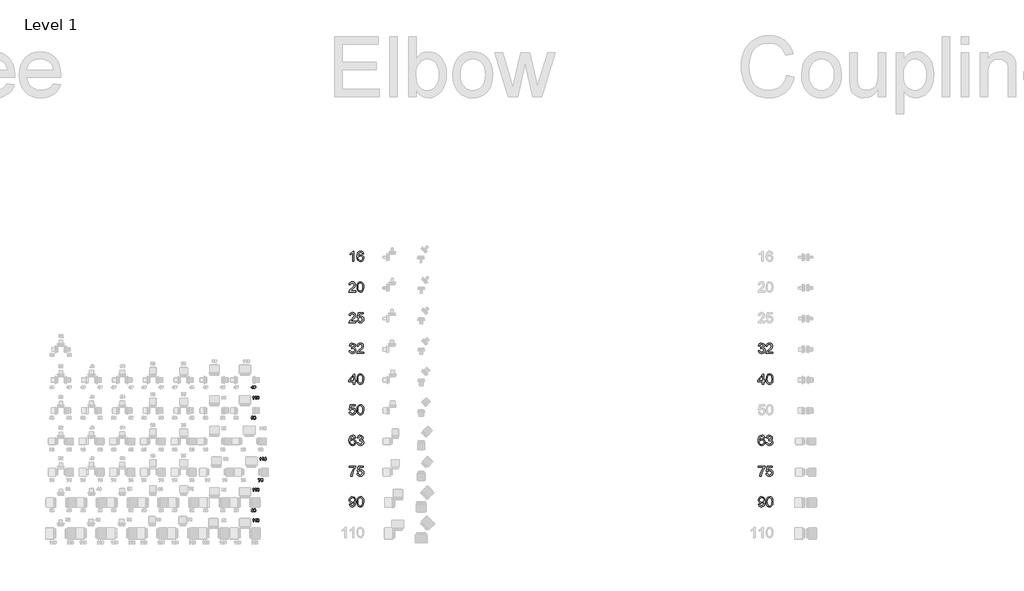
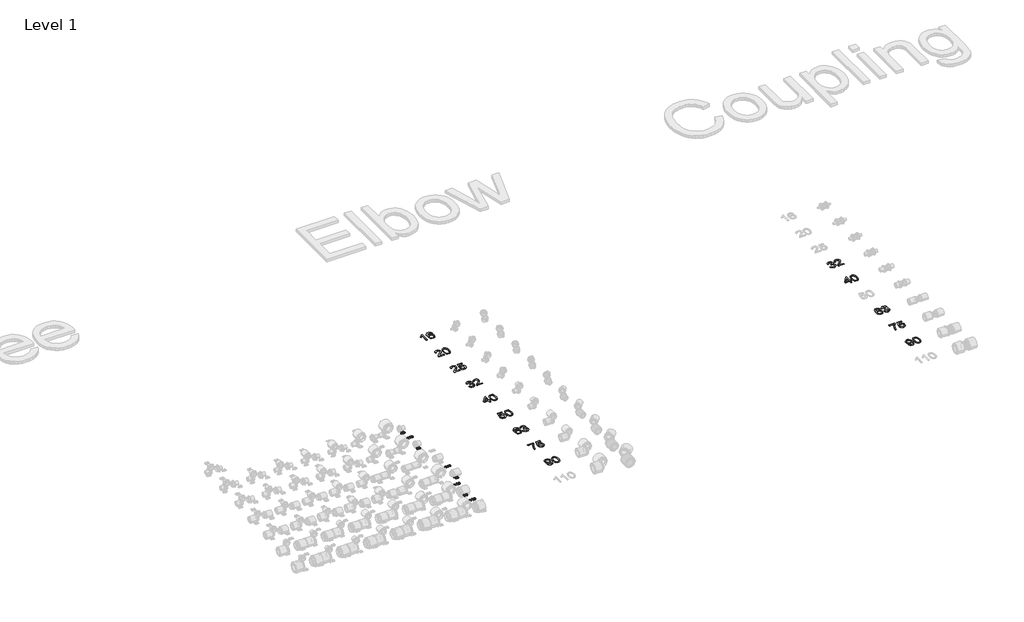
# One storey, part 32 of 58: 22 proxies.
"""IFC4 building model written with IfcOpenShell, lengths in millimetres."""

from ifc_helpers import new_model, si_unit, frame, origin, place, context, project, spatial, polyline, outline, extrude, element, save

model = new_model("IFC4")

# Units and contexts
model_context = context("Model", 3, world=origin())
ifc_project = project(units=[si_unit("LENGTHUNIT", "METRE", prefix="MILLI")], contexts=[model_context])

# Site, building, storey
site = spatial("IfcSite", under=ifc_project)
building = spatial("IfcBuilding", under=site)
storey = spatial("IfcBuildingStorey", under=building, Name="Level 1", Elevation=27.3876384)

# Proxies
placement = place(None, origin())
element("IfcBuildingElementProxy", 1, Name="100mm Arial", ObjectType="100mm Arial", at=placement, inside=storey, context=model_context, shape_type="SweptSolid", body=[
    extrude(outline(polyline([(17031.5703727, 18606.196048), (17019.0133339, 18606.196048), (17019.0133339, 18684.4813365), (17007.1184827, 18676.0077879), (16993.8992564, 18669.6679549), (16993.8992564, 18681.5382806), (17012.3056189, 18693.285979), (17023.4769688, 18706.6523581), (17031.5703727, 18706.6523581), (17031.5703727, 18606.196048)])), frame((0.0, 0.0, 27.3876384), z_axis=(0.0, 0.0, 1.0), x_axis=(1.0, 0.0, 0.0)), (0.0, 0.0, 1.0), 2.0),
    extrude(outline(polyline([(17125.7481635, 18679.9686507), (17113.1911247, 18678.3990209), (17108.4331842, 18688.871395), (17095.85162, 18694.0953193), (17084.5208545, 18691.0541615), (17075.949204, 18679.6375569), (17072.3807487, 18657.2580689), (17083.4539967, 18667.2767219), (17097.1759952, 18670.5508717), (17108.7765407, 18668.3129229), (17118.5131509, 18661.5990764), (17125.1166327, 18651.3413001), (17127.3177933, 18638.4715617), (17123.1729895, 18621.1443197), (17111.7686476, 18608.8815865), (17095.3120597, 18604.6264181), (17081.0658295, 18607.4468468), (17069.7197356, 18615.9081326), (17062.2977163, 18630.8441416), (17059.8237099, 18653.0887396), (17062.5705621, 18678.0985839), (17070.8111188, 18695.1989653), (17082.0621765, 18703.7890099), (17096.6364349, 18706.6523581), (17107.6545007, 18704.8803932), (17116.4775372, 18699.5644983), (17122.6579547, 18691.1216066), (17125.7481635, 18679.9686507)]), holes=[polyline([(17072.3807487, 18638.6677654), (17075.2870164, 18627.7907211), (17083.0125383, 18619.8935209), (17094.3310411, 18617.1834569), (17102.617583, 18618.5875398), (17109.13216, 18622.7997887), (17113.3536059, 18629.4216646), (17114.7607545, 18638.0546288), (17113.372, 18646.3411707), (17109.2057364, 18652.659544), (17102.5807948, 18656.6602607), (17093.8160063, 18657.9938329), (17078.6224799, 18652.659544), (17073.9411815, 18646.4944549), (17072.3807487, 18638.6677654)])]), frame((0.0, 0.0, 27.3876384), z_axis=(0.0, 0.0, 1.0), x_axis=(1.0, 0.0, 0.0)), (0.0, 0.0, 1.0), 2.0),
])
element("IfcBuildingElementProxy", 2, Name="100mm Arial", ObjectType="100mm Arial", at=placement, inside=storey, context=model_context, shape_type="SweptSolid", body=[
    extrude(outline(polyline([(17048.836301, 18318.7530867), (17048.836301, 18306.196048), (16982.9118475, 18306.196048), (16984.2607481, 18314.8535376), (16991.8881681, 18328.1831285), (17007.6089921, 18342.7389928), (17029.2895043, 18363.6592156), (17034.7096324, 18377.8839861), (17029.5960726, 18389.3986925), (17016.2419562, 18394.0953193), (17002.3237541, 18389.5090571), (16997.0385161, 18376.829391), (16984.4814773, 18378.3990209), (16987.5257008, 18390.5452581), (16994.1077228, 18399.4173455), (17003.8841869, 18404.843605), (17016.5117363, 18406.6523581), (17029.2312563, 18404.6412699), (17038.9893263, 18398.6080052), (17045.1973349, 18389.5948963), (17047.2666711, 18378.6442756), (17045.0348537, 18366.7371616), (17037.6159001, 18354.4253775), (17019.6264706, 18337.2207629), (17005.1809709, 18325.1419707), (16999.5155882, 18318.7530867), (17048.836301, 18318.7530867)])), frame((0.0, 0.0, 27.3876384), z_axis=(0.0, 0.0, 1.0), x_axis=(1.0, 0.0, 0.0)), (0.0, 0.0, 1.0), 2.0),
    extrude(outline(polyline([(17061.3933398, 18355.6148627), (17065.0844224, 18384.5181247), (17076.0473059, 18401.1831791), (17094.3555665, 18406.6523581), (17109.0217954, 18403.4149966), (17119.150813, 18394.0830566), (17125.0369249, 18379.220624), (17127.3177933, 18355.6148627), (17123.6634988, 18326.8342279), (17112.7374036, 18310.1323853), (17104.5060439, 18306.0029099), (17094.3555665, 18304.6264181), (17081.3080184, 18307.0176511), (17071.39973, 18314.19135), (17063.8949373, 18331.1813668), (17061.3933398, 18355.6148627)]), holes=[polyline([(17073.9503785, 18355.6393881), (17075.4219065, 18335.8871907), (17079.8364905, 18324.4552577), (17086.4093154, 18319.0014071), (17094.3555665, 18317.1834569), (17102.3018176, 18319.0075385), (17108.8746426, 18324.4797831), (17113.2892265, 18335.9178475), (17114.7607545, 18355.6393881), (17113.3382775, 18374.9470615), (17109.0708463, 18386.4678993), (17102.5102841, 18392.1884643), (17094.2084137, 18394.0953193), (17086.3480018, 18392.4153249), (17080.0326942, 18387.3753416), (17075.4709574, 18375.1371339), (17073.9503785, 18355.6393881)])]), frame((0.0, 0.0, 27.3876384), z_axis=(0.0, 0.0, 1.0), x_axis=(1.0, 0.0, 0.0)), (0.0, 0.0, 1.0), 2.0),
])
element("IfcBuildingElementProxy", 3, Name="100mm Arial", ObjectType="100mm Arial", at=placement, inside=storey, context=model_context, shape_type="SweptSolid", body=[
    extrude(outline(polyline([(17048.836301, 18018.7530867), (17048.836301, 18006.196048), (16982.9118475, 18006.196048), (16984.2607481, 18014.8535376), (16991.8881681, 18028.1831285), (17007.6089921, 18042.7389928), (17029.2895043, 18063.6592156), (17034.7096324, 18077.8839861), (17029.5960726, 18089.3986925), (17016.2419562, 18094.0953193), (17002.3237541, 18089.5090571), (16997.0385161, 18076.829391), (16984.4814773, 18078.3990209), (16987.5257008, 18090.5452581), (16994.1077228, 18099.4173455), (17003.8841869, 18104.843605), (17016.5117363, 18106.6523581), (17029.2312563, 18104.6412699), (17038.9893263, 18098.6080052), (17045.1973349, 18089.5948963), (17047.2666711, 18078.6442756), (17045.0348537, 18066.7371616), (17037.6159001, 18054.4253775), (17019.6264706, 18037.2207629), (17005.1809709, 18025.1419707), (16999.5155882, 18018.7530867), (17048.836301, 18018.7530867)])), frame((0.0, 0.0, 27.3876384), z_axis=(0.0, 0.0, 1.0), x_axis=(1.0, 0.0, 0.0)), (0.0, 0.0, 1.0), 2.0),
    extrude(outline(polyline([(17061.3933398, 18032.8797554), (17073.9503785, 18034.4493852), (17080.2779488, 18021.5122017), (17093.3990733, 18017.1834569), (17102.3999195, 18018.6887074), (17109.1444227, 18023.2044589), (17113.3566716, 18030.2095452), (17114.7607545, 18039.1828002), (17109.500042, 18054.0942837), (17102.8934945, 18058.196168), (17093.5952771, 18059.5634627), (17082.57108, 18057.3806962), (17075.5200084, 18051.7153135), (17062.9629696, 18053.2849434), (17073.9503785, 18105.0827283), (17122.6089038, 18105.0827283), (17122.6089038, 18092.5256895), (17084.1039216, 18092.5256895), (17078.7328445, 18064.8609635), (17087.7030338, 18070.305617), (17097.1024188, 18072.1205015), (17108.8347887, 18069.87029), (17118.5744645, 18063.1196554), (17125.1319611, 18052.8312222), (17127.3177933, 18039.9676151), (17125.3496246, 18027.4105764), (17119.4451186, 18016.6684221), (17108.1388786, 18007.6369191), (17093.3500224, 18004.6264181), (17081.0167785, 18006.5608643), (17071.1912636, 18012.3642028), (17064.4559574, 18021.3619832), (17061.3933398, 18032.8797554)])), frame((0.0, 0.0, 27.3876384), z_axis=(0.0, 0.0, 1.0), x_axis=(1.0, 0.0, 0.0)), (0.0, 0.0, 1.0), 2.0),
])
element("IfcBuildingElementProxy", 4, Name="100mm Arial", ObjectType="100mm Arial", at=placement, inside=storey, context=model_context, shape_type="SweptSolid", body=[
    extrude(outline(polyline([(16984.4814773, 17732.8797554), (16997.0385161, 17734.4493852), (17003.9669603, 17721.2301588), (17016.9286693, 17717.1834569), (17025.537108, 17718.5752771), (17032.1835093, 17722.7507378), (17037.8488921, 17736.5340498), (17032.2325603, 17749.5202843), (17017.9587389, 17754.6583695), (17009.1540964, 17753.2849434), (17010.552048, 17765.8419821), (17012.5631363, 17765.6948293), (17026.8124322, 17769.3000729), (17031.55811, 17773.8740723), (17033.1400025, 17780.3855837), (17028.5537403, 17790.2080329), (17016.7324655, 17794.0953193), (17004.764038, 17790.1712447), (16998.6081459, 17778.3990209), (16986.0511071, 17779.9686507), (16989.7483212, 17791.2442339), (16996.3272775, 17799.6626002), (17005.3281237, 17804.9049186), (17016.2910072, 17806.6523581), (17031.4354826, 17803.2065301), (17042.0304841, 17793.788751), (17045.6970413, 17781.1213477), (17042.2144251, 17769.5453275), (17031.9137292, 17761.2311944), (17045.5989394, 17752.6472812), (17050.4059308, 17736.3133206), (17048.0024351, 17724.0751129), (17040.791948, 17713.8479935), (17029.9087723, 17706.931812), (17016.4872109, 17704.6264181), (17004.347105, 17706.5945868), (16994.4633421, 17712.4990928), (16987.5900802, 17721.5305958), (16984.4814773, 17732.8797554)])), frame((0.0, 0.0, 27.3876384), z_axis=(0.0, 0.0, 1.0), x_axis=(1.0, 0.0, 0.0)), (0.0, 0.0, 1.0), 2.0),
    extrude(outline(polyline([(17125.7481635, 17718.7530867), (17125.7481635, 17706.196048), (17059.8237099, 17706.196048), (17061.1726106, 17714.8535376), (17068.8000306, 17728.1831285), (17084.5208545, 17742.7389928), (17106.2013668, 17763.6592156), (17111.6214948, 17777.8839861), (17106.5079351, 17789.3986925), (17093.1538187, 17794.0953193), (17079.2356165, 17789.5090571), (17073.9503785, 17776.829391), (17061.3933398, 17778.3990209), (17064.4375633, 17790.5452581), (17071.0195853, 17799.4173455), (17080.7960493, 17804.843605), (17093.4235988, 17806.6523581), (17106.1431188, 17804.6412699), (17115.9011887, 17798.6080052), (17122.1091974, 17789.5948963), (17124.1785336, 17778.6442756), (17121.9467162, 17766.7371616), (17114.5277626, 17754.4253775), (17096.538333, 17737.2207629), (17082.0928334, 17725.1419707), (17076.4274506, 17718.7530867), (17125.7481635, 17718.7530867)])), frame((0.0, 0.0, 27.3876384), z_axis=(0.0, 0.0, 1.0), x_axis=(1.0, 0.0, 0.0)), (0.0, 0.0, 1.0), 2.0),
])
element("IfcBuildingElementProxy", 5, Name="100mm Arial", ObjectType="100mm Arial", at=placement, inside=storey, context=model_context, shape_type="SweptSolid", body=[
    extrude(outline(polyline([(17025.2918533, 17406.196048), (17025.2918533, 17429.7404957), (16979.7725878, 17429.7404957), (16979.7725878, 17442.2975344), (17028.431113, 17505.0827283), (17037.8488921, 17505.0827283), (17037.8488921, 17442.2975344), (17050.4059308, 17442.2975344), (17050.4059308, 17429.7404957), (17037.8488921, 17429.7404957), (17037.8488921, 17406.196048), (17025.2918533, 17406.196048)]), holes=[polyline([(17025.2918533, 17442.2975344), (17025.2918533, 17481.0968222), (16995.2236316, 17442.2975344), (17025.2918533, 17442.2975344)])]), frame((0.0, 0.0, 27.3876384), z_axis=(0.0, 0.0, 1.0), x_axis=(1.0, 0.0, 0.0)), (0.0, 0.0, 1.0), 2.0),
    extrude(outline(polyline([(17061.3933398, 17455.6148627), (17065.0844224, 17484.5181247), (17076.0473059, 17501.1831791), (17094.3555665, 17506.6523581), (17109.0217954, 17503.4149966), (17119.150813, 17494.0830566), (17125.0369249, 17479.220624), (17127.3177933, 17455.6148627), (17123.6634988, 17426.8342279), (17112.7374036, 17410.1323853), (17104.5060439, 17406.0029099), (17094.3555665, 17404.6264181), (17081.3080184, 17407.0176511), (17071.39973, 17414.19135), (17063.8949373, 17431.1813668), (17061.3933398, 17455.6148627)]), holes=[polyline([(17073.9503785, 17455.6393881), (17075.4219065, 17435.8871907), (17079.8364905, 17424.4552577), (17086.4093154, 17419.0014071), (17094.3555665, 17417.1834569), (17102.3018176, 17419.0075385), (17108.8746426, 17424.4797831), (17113.2892265, 17435.9178475), (17114.7607545, 17455.6393881), (17113.3382775, 17474.9470615), (17109.0708463, 17486.4678993), (17102.5102841, 17492.1884643), (17094.2084137, 17494.0953193), (17086.3480018, 17492.4153249), (17080.0326942, 17487.3753416), (17075.4709574, 17475.1371339), (17073.9503785, 17455.6393881)])]), frame((0.0, 0.0, 27.3876384), z_axis=(0.0, 0.0, 1.0), x_axis=(1.0, 0.0, 0.0)), (0.0, 0.0, 1.0), 2.0),
])
element("IfcBuildingElementProxy", 6, Name="100mm Arial", ObjectType="100mm Arial", at=placement, inside=storey, context=model_context, shape_type="SweptSolid", body=[
    extrude(outline(polyline([(16984.4814773, 17132.8797554), (16997.0385161, 17134.4493852), (17003.3660864, 17121.5122017), (17016.4872109, 17117.1834569), (17025.488057, 17118.6887074), (17032.2325603, 17123.2044589), (17036.4448091, 17130.2095452), (17037.8488921, 17139.1828002), (17032.5881795, 17154.0942837), (17025.981632, 17158.196168), (17016.6834146, 17159.5634627), (17005.6592175, 17157.3806962), (16998.6081459, 17151.7153135), (16986.0511071, 17153.2849434), (16997.0385161, 17205.0827283), (17045.6970413, 17205.0827283), (17045.6970413, 17192.5256895), (17007.1920591, 17192.5256895), (17001.820982, 17164.8609635), (17010.7911713, 17170.305617), (17020.1905563, 17172.1205015), (17031.9229263, 17169.87029), (17041.6626021, 17163.1196554), (17048.2200987, 17152.8312222), (17050.4059308, 17139.9676151), (17048.4377622, 17127.4105764), (17042.5332561, 17116.6684221), (17031.2270162, 17107.6369191), (17016.43816, 17104.6264181), (17004.1049161, 17106.5608643), (16994.2794011, 17112.3642028), (16987.5440949, 17121.3619832), (16984.4814773, 17132.8797554)])), frame((0.0, 0.0, 27.3876384), z_axis=(0.0, 0.0, 1.0), x_axis=(1.0, 0.0, 0.0)), (0.0, 0.0, 1.0), 2.0),
    extrude(outline(polyline([(17061.3933398, 17155.6148627), (17065.0844224, 17184.5181247), (17076.0473059, 17201.1831791), (17094.3555665, 17206.6523581), (17109.0217954, 17203.4149966), (17119.150813, 17194.0830566), (17125.0369249, 17179.220624), (17127.3177933, 17155.6148627), (17123.6634988, 17126.8342279), (17112.7374036, 17110.1323853), (17104.5060439, 17106.0029099), (17094.3555665, 17104.6264181), (17081.3080184, 17107.0176511), (17071.39973, 17114.19135), (17063.8949373, 17131.1813668), (17061.3933398, 17155.6148627)]), holes=[polyline([(17073.9503785, 17155.6393881), (17075.4219065, 17135.8871907), (17079.8364905, 17124.4552577), (17086.4093154, 17119.0014071), (17094.3555665, 17117.1834569), (17102.3018176, 17119.0075385), (17108.8746426, 17124.4797831), (17113.2892265, 17135.9178475), (17114.7607545, 17155.6393881), (17113.3382775, 17174.9470615), (17109.0708463, 17186.4678993), (17102.5102841, 17192.1884643), (17094.2084137, 17194.0953193), (17086.3480018, 17192.4153249), (17080.0326942, 17187.3753416), (17075.4709574, 17175.1371339), (17073.9503785, 17155.6393881)])]), frame((0.0, 0.0, 27.3876384), z_axis=(0.0, 0.0, 1.0), x_axis=(1.0, 0.0, 0.0)), (0.0, 0.0, 1.0), 2.0),
])
element("IfcBuildingElementProxy", 7, Name="100mm Arial", ObjectType="100mm Arial", at=placement, inside=storey, context=model_context, shape_type="SweptSolid", body=[
    extrude(outline(polyline([(17048.836301, 16879.9686507), (17036.2792622, 16878.3990209), (17031.5213218, 16888.871395), (17018.9397575, 16894.0953193), (17007.6089921, 16891.0541615), (16999.0373416, 16879.6375569), (16995.4688862, 16857.2580689), (17006.5421343, 16867.2767219), (17020.2641327, 16870.5508717), (17031.8646783, 16868.3129229), (17041.6012884, 16861.5990764), (17048.2047702, 16851.3413001), (17050.4059308, 16838.4715617), (17046.261127, 16821.1443197), (17034.8567852, 16808.8815865), (17018.4001973, 16804.6264181), (17004.153967, 16807.4468468), (16992.8078731, 16815.9081326), (16985.3858539, 16830.8441416), (16982.9118475, 16853.0887396), (16985.6586997, 16878.0985839), (16993.8992564, 16895.1989653), (17005.1503141, 16903.7890099), (17019.7245724, 16906.6523581), (17030.7426382, 16904.8803932), (17039.5656747, 16899.5644983), (17045.7460922, 16891.1216066), (17048.836301, 16879.9686507)]), holes=[polyline([(16995.4688862, 16838.6677654), (16998.375154, 16827.7907211), (17006.1006759, 16819.8935209), (17017.4191786, 16817.1834569), (17025.7057205, 16818.5875398), (17032.2202975, 16822.7997887), (17036.4417434, 16829.4216646), (17037.8488921, 16838.0546288), (17036.4601375, 16846.3411707), (17032.2938739, 16852.659544), (17025.6689323, 16856.6602607), (17016.9041438, 16857.9938329), (17001.7106174, 16852.659544), (16997.029319, 16846.4944549), (16995.4688862, 16838.6677654)])]), frame((0.0, 0.0, 27.3876384), z_axis=(0.0, 0.0, 1.0), x_axis=(1.0, 0.0, 0.0)), (0.0, 0.0, 1.0), 2.0),
    extrude(outline(polyline([(17061.3933398, 16832.8797554), (17073.9503785, 16834.4493852), (17080.8788228, 16821.2301588), (17093.8405317, 16817.1834569), (17102.4489704, 16818.5752771), (17109.0953718, 16822.7507378), (17114.7607545, 16836.5340498), (17109.1444227, 16849.5202843), (17094.8706013, 16854.6583695), (17086.0659589, 16853.2849434), (17087.4639105, 16865.8419821), (17089.4749987, 16865.6948293), (17103.7242947, 16869.3000729), (17108.4699724, 16873.8740723), (17110.051865, 16880.3855837), (17105.4656028, 16890.2080329), (17093.644328, 16894.0953193), (17081.6759004, 16890.1712447), (17075.5200084, 16878.3990209), (17062.9629696, 16879.9686507), (17066.6601837, 16891.2442339), (17073.23914, 16899.6626002), (17082.2399862, 16904.9049186), (17093.2028696, 16906.6523581), (17108.3473451, 16903.2065301), (17118.9423465, 16893.788751), (17122.6089038, 16881.1213477), (17119.1262875, 16869.5453275), (17108.8255917, 16861.2311944), (17122.5108019, 16852.6472812), (17127.3177933, 16836.3133206), (17124.9142976, 16824.0751129), (17117.7038105, 16813.8479935), (17106.8206348, 16806.931812), (17093.3990733, 16804.6264181), (17081.2589675, 16806.5945868), (17071.3752046, 16812.4990928), (17064.5019426, 16821.5305958), (17061.3933398, 16832.8797554)])), frame((0.0, 0.0, 27.3876384), z_axis=(0.0, 0.0, 1.0), x_axis=(1.0, 0.0, 0.0)), (0.0, 0.0, 1.0), 2.0),
])
element("IfcBuildingElementProxy", 8, Name="100mm Arial", ObjectType="100mm Arial", at=placement, inside=storey, context=model_context, shape_type="SweptSolid", body=[
    extrude(outline(polyline([(16984.4814773, 16592.5256895), (16984.4814773, 16605.0827283), (17050.4059308, 16605.0827283), (17050.4059308, 16594.9291852), (17031.7052628, 16567.914384), (17017.3946531, 16533.492892), (17012.7348145, 16506.196048), (17000.1777758, 16506.196048), (17005.1687082, 16534.5229616), (17018.8661811, 16566.5409579), (17037.8488921, 16592.5256895), (16984.4814773, 16592.5256895)])), frame((0.0, 0.0, 27.3876384), z_axis=(0.0, 0.0, 1.0), x_axis=(1.0, 0.0, 0.0)), (0.0, 0.0, 1.0), 2.0),
    extrude(outline(polyline([(17061.3933398, 16532.8797554), (17073.9503785, 16534.4493852), (17080.2779488, 16521.5122017), (17093.3990733, 16517.1834569), (17102.3999195, 16518.6887074), (17109.1444227, 16523.2044589), (17113.3566716, 16530.2095452), (17114.7607545, 16539.1828002), (17109.500042, 16554.0942837), (17102.8934945, 16558.196168), (17093.5952771, 16559.5634627), (17082.57108, 16557.3806962), (17075.5200084, 16551.7153135), (17062.9629696, 16553.2849434), (17073.9503785, 16605.0827283), (17122.6089038, 16605.0827283), (17122.6089038, 16592.5256895), (17084.1039216, 16592.5256895), (17078.7328445, 16564.8609635), (17087.7030338, 16570.305617), (17097.1024188, 16572.1205015), (17108.8347887, 16569.87029), (17118.5744645, 16563.1196554), (17125.1319611, 16552.8312222), (17127.3177933, 16539.9676151), (17125.3496246, 16527.4105764), (17119.4451186, 16516.6684221), (17108.1388786, 16507.6369191), (17093.3500224, 16504.6264181), (17081.0167785, 16506.5608643), (17071.1912636, 16512.3642028), (17064.4559574, 16521.3619832), (17061.3933398, 16532.8797554)])), frame((0.0, 0.0, 27.3876384), z_axis=(0.0, 0.0, 1.0), x_axis=(1.0, 0.0, 0.0)), (0.0, 0.0, 1.0), 2.0),
])
element("IfcBuildingElementProxy", 9, Name="100mm Arial", ObjectType="100mm Arial", at=placement, inside=storey, context=model_context, shape_type="SweptSolid", body=[
    extrude(outline(polyline([(16986.0511071, 16231.3101255), (16998.6081459, 16232.8797554), (17004.2490032, 16220.899065), (17014.9421065, 16217.1834569), (17025.1079123, 16219.5746899), (17031.9995683, 16225.9635738), (17036.107584, 16236.8774064), (17037.9224685, 16251.4455334), (17037.8488921, 16253.89808), (17027.8057136, 16244.3821991), (17014.0346642, 16240.7279046), (17002.5843371, 16242.959722), (16993.0531278, 16249.6551743), (16986.6243899, 16259.9987898), (16984.4814773, 16273.1750966), (16986.7286232, 16286.7867304), (16993.4700607, 16297.4553082), (17003.5960126, 16304.3530956), (17015.9967016, 16306.6523581), (17033.8880293, 16301.4039083), (17046.1998134, 16286.4433738), (17050.4059308, 16258.3371894), (17046.2120761, 16227.839772), (17040.9973488, 16217.8487102), (17033.7408765, 16210.561581), (17024.7553587, 16206.1102088), (17014.3534953, 16204.6264181), (17003.6174724, 16206.3769233), (16995.0519533, 16211.6284388), (16989.0616081, 16220.0498708), (16986.0511071, 16231.3101255)]), holes=[polyline([(17037.8488921, 16273.4694022), (17036.4938601, 16281.979739), (17032.428764, 16288.5280385), (17026.1195878, 16292.7034991), (17018.0323153, 16294.0953193), (17009.6446058, 16292.5962002), (17002.924628, 16288.0988428), (16998.5100441, 16281.2163838), (16997.0385161, 16272.5619599), (16998.4303363, 16264.8027155), (17002.6057969, 16258.6437577), (17009.1602278, 16254.624647), (17017.6889587, 16253.2849434), (17032.1712466, 16258.6437577), (17036.4294807, 16265.029576), (17037.8488921, 16273.4694022)])]), frame((0.0, 0.0, 27.3876384), z_axis=(0.0, 0.0, 1.0), x_axis=(1.0, 0.0, 0.0)), (0.0, 0.0, 1.0), 2.0),
    extrude(outline(polyline([(17061.3933398, 16255.6148627), (17065.0844224, 16284.5181247), (17076.0473059, 16301.1831791), (17094.3555665, 16306.6523581), (17109.0217954, 16303.4149966), (17119.150813, 16294.0830566), (17125.0369249, 16279.220624), (17127.3177933, 16255.6148627), (17123.6634988, 16226.8342279), (17112.7374036, 16210.1323853), (17104.5060439, 16206.0029099), (17094.3555665, 16204.6264181), (17081.3080184, 16207.0176511), (17071.39973, 16214.19135), (17063.8949373, 16231.1813668), (17061.3933398, 16255.6148627)]), holes=[polyline([(17073.9503785, 16255.6393881), (17075.4219065, 16235.8871907), (17079.8364905, 16224.4552577), (17086.4093154, 16219.0014071), (17094.3555665, 16217.1834569), (17102.3018176, 16219.0075385), (17108.8746426, 16224.4797831), (17113.2892265, 16235.9178475), (17114.7607545, 16255.6393881), (17113.3382775, 16274.9470615), (17109.0708463, 16286.4678993), (17102.5102841, 16292.1884643), (17094.2084137, 16294.0953193), (17086.3480018, 16292.4153249), (17080.0326942, 16287.3753416), (17075.4709574, 16275.1371339), (17073.9503785, 16255.6393881)])]), frame((0.0, 0.0, 27.3876384), z_axis=(0.0, 0.0, 1.0), x_axis=(1.0, 0.0, 0.0)), (0.0, 0.0, 1.0), 2.0),
])
element("IfcBuildingElementProxy", 10, Name="100mm Arial", ObjectType="100mm Arial", at=placement, inside=storey, context=model_context, shape_type="SweptSolid", body=[
    extrude(outline(polyline([(20984.4814773, 17732.8797554), (20997.0385161, 17734.4493852), (21003.9669603, 17721.2301588), (21016.9286693, 17717.1834569), (21025.537108, 17718.5752771), (21032.1835093, 17722.7507378), (21037.8488921, 17736.5340498), (21032.2325603, 17749.5202843), (21017.9587389, 17754.6583695), (21009.1540964, 17753.2849434), (21010.552048, 17765.8419821), (21012.5631363, 17765.6948293), (21026.8124322, 17769.3000729), (21031.55811, 17773.8740723), (21033.1400025, 17780.3855837), (21028.5537403, 17790.2080329), (21016.7324655, 17794.0953193), (21004.764038, 17790.1712447), (20998.6081459, 17778.3990209), (20986.0511071, 17779.9686507), (20989.7483212, 17791.2442339), (20996.3272775, 17799.6626002), (21005.3281237, 17804.9049186), (21016.2910072, 17806.6523581), (21031.4354826, 17803.2065301), (21042.0304841, 17793.788751), (21045.6970413, 17781.1213477), (21042.2144251, 17769.5453275), (21031.9137292, 17761.2311944), (21045.5989394, 17752.6472812), (21050.4059308, 17736.3133206), (21048.0024351, 17724.0751129), (21040.791948, 17713.8479935), (21029.9087723, 17706.931812), (21016.4872109, 17704.6264181), (21004.347105, 17706.5945868), (20994.4633421, 17712.4990928), (20987.5900802, 17721.5305958), (20984.4814773, 17732.8797554)])), frame((0.0, 0.0, 27.3876384), z_axis=(0.0, 0.0, 1.0), x_axis=(1.0, 0.0, 0.0)), (0.0, 0.0, 1.0), 2.0),
    extrude(outline(polyline([(21125.7481635, 17718.7530867), (21125.7481635, 17706.196048), (21059.8237099, 17706.196048), (21061.1726106, 17714.8535376), (21068.8000306, 17728.1831285), (21084.5208545, 17742.7389928), (21106.2013668, 17763.6592156), (21111.6214948, 17777.8839861), (21106.5079351, 17789.3986925), (21093.1538187, 17794.0953193), (21079.2356165, 17789.5090571), (21073.9503785, 17776.829391), (21061.3933398, 17778.3990209), (21064.4375633, 17790.5452581), (21071.0195853, 17799.4173455), (21080.7960493, 17804.843605), (21093.4235988, 17806.6523581), (21106.1431188, 17804.6412699), (21115.9011887, 17798.6080052), (21122.1091974, 17789.5948963), (21124.1785336, 17778.6442756), (21121.9467162, 17766.7371616), (21114.5277626, 17754.4253775), (21096.538333, 17737.2207629), (21082.0928334, 17725.1419707), (21076.4274506, 17718.7530867), (21125.7481635, 17718.7530867)])), frame((0.0, 0.0, 27.3876384), z_axis=(0.0, 0.0, 1.0), x_axis=(1.0, 0.0, 0.0)), (0.0, 0.0, 1.0), 2.0),
])
element("IfcBuildingElementProxy", 11, Name="100mm Arial", ObjectType="100mm Arial", at=placement, inside=storey, context=model_context, shape_type="SweptSolid", body=[
    extrude(outline(polyline([(21025.2918533, 17406.196048), (21025.2918533, 17429.7404957), (20979.7725878, 17429.7404957), (20979.7725878, 17442.2975344), (21028.431113, 17505.0827283), (21037.8488921, 17505.0827283), (21037.8488921, 17442.2975344), (21050.4059308, 17442.2975344), (21050.4059308, 17429.7404957), (21037.8488921, 17429.7404957), (21037.8488921, 17406.196048), (21025.2918533, 17406.196048)]), holes=[polyline([(21025.2918533, 17442.2975344), (21025.2918533, 17481.0968222), (20995.2236316, 17442.2975344), (21025.2918533, 17442.2975344)])]), frame((0.0, 0.0, 27.3876384), z_axis=(0.0, 0.0, 1.0), x_axis=(1.0, 0.0, 0.0)), (0.0, 0.0, 1.0), 2.0),
    extrude(outline(polyline([(21061.3933398, 17455.6148627), (21065.0844224, 17484.5181247), (21076.0473059, 17501.1831791), (21094.3555665, 17506.6523581), (21109.0217954, 17503.4149966), (21119.150813, 17494.0830566), (21125.0369249, 17479.220624), (21127.3177933, 17455.6148627), (21123.6634988, 17426.8342279), (21112.7374036, 17410.1323853), (21104.5060439, 17406.0029099), (21094.3555665, 17404.6264181), (21081.3080184, 17407.0176511), (21071.39973, 17414.19135), (21063.8949373, 17431.1813668), (21061.3933398, 17455.6148627)]), holes=[polyline([(21073.9503785, 17455.6393881), (21075.4219065, 17435.8871907), (21079.8364905, 17424.4552577), (21086.4093154, 17419.0014071), (21094.3555665, 17417.1834569), (21102.3018176, 17419.0075385), (21108.8746426, 17424.4797831), (21113.2892265, 17435.9178475), (21114.7607545, 17455.6393881), (21113.3382775, 17474.9470615), (21109.0708463, 17486.4678993), (21102.5102841, 17492.1884643), (21094.2084137, 17494.0953193), (21086.3480018, 17492.4153249), (21080.0326942, 17487.3753416), (21075.4709574, 17475.1371339), (21073.9503785, 17455.6393881)])]), frame((0.0, 0.0, 27.3876384), z_axis=(0.0, 0.0, 1.0), x_axis=(1.0, 0.0, 0.0)), (0.0, 0.0, 1.0), 2.0),
])
element("IfcBuildingElementProxy", 12, Name="100mm Arial", ObjectType="100mm Arial", at=placement, inside=storey, context=model_context, shape_type="SweptSolid", body=[
    extrude(outline(polyline([(21048.836301, 16879.9686507), (21036.2792622, 16878.3990209), (21031.5213218, 16888.871395), (21018.9397575, 16894.0953193), (21007.6089921, 16891.0541615), (20999.0373416, 16879.6375569), (20995.4688862, 16857.2580689), (21006.5421343, 16867.2767219), (21020.2641327, 16870.5508717), (21031.8646783, 16868.3129229), (21041.6012884, 16861.5990764), (21048.2047702, 16851.3413001), (21050.4059308, 16838.4715617), (21046.261127, 16821.1443197), (21034.8567852, 16808.8815865), (21018.4001973, 16804.6264181), (21004.153967, 16807.4468468), (20992.8078731, 16815.9081326), (20985.3858539, 16830.8441416), (20982.9118475, 16853.0887396), (20985.6586997, 16878.0985839), (20993.8992564, 16895.1989653), (21005.1503141, 16903.7890099), (21019.7245724, 16906.6523581), (21030.7426382, 16904.8803932), (21039.5656747, 16899.5644983), (21045.7460922, 16891.1216066), (21048.836301, 16879.9686507)]), holes=[polyline([(20995.4688862, 16838.6677654), (20998.375154, 16827.7907211), (21006.1006759, 16819.8935209), (21017.4191786, 16817.1834569), (21025.7057205, 16818.5875398), (21032.2202975, 16822.7997887), (21036.4417434, 16829.4216646), (21037.8488921, 16838.0546288), (21036.4601375, 16846.3411707), (21032.2938739, 16852.659544), (21025.6689323, 16856.6602607), (21016.9041438, 16857.9938329), (21001.7106174, 16852.659544), (20997.029319, 16846.4944549), (20995.4688862, 16838.6677654)])]), frame((0.0, 0.0, 27.3876384), z_axis=(0.0, 0.0, 1.0), x_axis=(1.0, 0.0, 0.0)), (0.0, 0.0, 1.0), 2.0),
    extrude(outline(polyline([(21061.3933398, 16832.8797554), (21073.9503785, 16834.4493852), (21080.8788228, 16821.2301588), (21093.8405317, 16817.1834569), (21102.4489704, 16818.5752771), (21109.0953718, 16822.7507378), (21114.7607545, 16836.5340498), (21109.1444227, 16849.5202843), (21094.8706013, 16854.6583695), (21086.0659589, 16853.2849434), (21087.4639105, 16865.8419821), (21089.4749987, 16865.6948293), (21103.7242947, 16869.3000729), (21108.4699724, 16873.8740723), (21110.051865, 16880.3855837), (21105.4656028, 16890.2080329), (21093.644328, 16894.0953193), (21081.6759004, 16890.1712447), (21075.5200084, 16878.3990209), (21062.9629696, 16879.9686507), (21066.6601837, 16891.2442339), (21073.23914, 16899.6626002), (21082.2399862, 16904.9049186), (21093.2028696, 16906.6523581), (21108.3473451, 16903.2065301), (21118.9423465, 16893.788751), (21122.6089038, 16881.1213477), (21119.1262875, 16869.5453275), (21108.8255917, 16861.2311944), (21122.5108019, 16852.6472812), (21127.3177933, 16836.3133206), (21124.9142976, 16824.0751129), (21117.7038105, 16813.8479935), (21106.8206348, 16806.931812), (21093.3990733, 16804.6264181), (21081.2589675, 16806.5945868), (21071.3752046, 16812.4990928), (21064.5019426, 16821.5305958), (21061.3933398, 16832.8797554)])), frame((0.0, 0.0, 27.3876384), z_axis=(0.0, 0.0, 1.0), x_axis=(1.0, 0.0, 0.0)), (0.0, 0.0, 1.0), 2.0),
])
element("IfcBuildingElementProxy", 13, Name="100mm Arial", ObjectType="100mm Arial", at=placement, inside=storey, context=model_context, shape_type="SweptSolid", body=[
    extrude(outline(polyline([(20984.4814773, 16592.5256895), (20984.4814773, 16605.0827283), (21050.4059308, 16605.0827283), (21050.4059308, 16594.9291852), (21031.7052628, 16567.914384), (21017.3946531, 16533.492892), (21012.7348145, 16506.196048), (21000.1777758, 16506.196048), (21005.1687082, 16534.5229616), (21018.8661811, 16566.5409579), (21037.8488921, 16592.5256895), (20984.4814773, 16592.5256895)])), frame((0.0, 0.0, 27.3876384), z_axis=(0.0, 0.0, 1.0), x_axis=(1.0, 0.0, 0.0)), (0.0, 0.0, 1.0), 2.0),
    extrude(outline(polyline([(21061.3933398, 16532.8797554), (21073.9503785, 16534.4493852), (21080.2779488, 16521.5122017), (21093.3990733, 16517.1834569), (21102.3999195, 16518.6887074), (21109.1444227, 16523.2044589), (21113.3566716, 16530.2095452), (21114.7607545, 16539.1828002), (21109.500042, 16554.0942837), (21102.8934945, 16558.196168), (21093.5952771, 16559.5634627), (21082.57108, 16557.3806962), (21075.5200084, 16551.7153135), (21062.9629696, 16553.2849434), (21073.9503785, 16605.0827283), (21122.6089038, 16605.0827283), (21122.6089038, 16592.5256895), (21084.1039216, 16592.5256895), (21078.7328445, 16564.8609635), (21087.7030338, 16570.305617), (21097.1024188, 16572.1205015), (21108.8347887, 16569.87029), (21118.5744645, 16563.1196554), (21125.1319611, 16552.8312222), (21127.3177933, 16539.9676151), (21125.3496246, 16527.4105764), (21119.4451186, 16516.6684221), (21108.1388786, 16507.6369191), (21093.3500224, 16504.6264181), (21081.0167785, 16506.5608643), (21071.1912636, 16512.3642028), (21064.4559574, 16521.3619832), (21061.3933398, 16532.8797554)])), frame((0.0, 0.0, 27.3876384), z_axis=(0.0, 0.0, 1.0), x_axis=(1.0, 0.0, 0.0)), (0.0, 0.0, 1.0), 2.0),
])
element("IfcBuildingElementProxy", 14, Name="100mm Arial", ObjectType="100mm Arial", at=placement, inside=storey, context=model_context, shape_type="SweptSolid", body=[
    extrude(outline(polyline([(20986.0511071, 16231.3101255), (20998.6081459, 16232.8797554), (21004.2490032, 16220.899065), (21014.9421065, 16217.1834569), (21025.1079123, 16219.5746899), (21031.9995683, 16225.9635738), (21036.107584, 16236.8774064), (21037.9224685, 16251.4455334), (21037.8488921, 16253.89808), (21027.8057136, 16244.3821991), (21014.0346642, 16240.7279046), (21002.5843371, 16242.959722), (20993.0531278, 16249.6551743), (20986.6243899, 16259.9987898), (20984.4814773, 16273.1750966), (20986.7286232, 16286.7867304), (20993.4700607, 16297.4553082), (21003.5960126, 16304.3530956), (21015.9967016, 16306.6523581), (21033.8880293, 16301.4039083), (21046.1998134, 16286.4433738), (21050.4059308, 16258.3371894), (21046.2120761, 16227.839772), (21040.9973488, 16217.8487102), (21033.7408765, 16210.561581), (21024.7553587, 16206.1102088), (21014.3534953, 16204.6264181), (21003.6174724, 16206.3769233), (20995.0519533, 16211.6284388), (20989.0616081, 16220.0498708), (20986.0511071, 16231.3101255)]), holes=[polyline([(21037.8488921, 16273.4694022), (21036.4938601, 16281.979739), (21032.428764, 16288.5280385), (21026.1195878, 16292.7034991), (21018.0323153, 16294.0953193), (21009.6446058, 16292.5962002), (21002.924628, 16288.0988428), (20998.5100441, 16281.2163838), (20997.0385161, 16272.5619599), (20998.4303363, 16264.8027155), (21002.6057969, 16258.6437577), (21009.1602278, 16254.624647), (21017.6889587, 16253.2849434), (21032.1712466, 16258.6437577), (21036.4294807, 16265.029576), (21037.8488921, 16273.4694022)])]), frame((0.0, 0.0, 27.3876384), z_axis=(0.0, 0.0, 1.0), x_axis=(1.0, 0.0, 0.0)), (0.0, 0.0, 1.0), 2.0),
    extrude(outline(polyline([(21061.3933398, 16255.6148627), (21065.0844224, 16284.5181247), (21076.0473059, 16301.1831791), (21094.3555665, 16306.6523581), (21109.0217954, 16303.4149966), (21119.150813, 16294.0830566), (21125.0369249, 16279.220624), (21127.3177933, 16255.6148627), (21123.6634988, 16226.8342279), (21112.7374036, 16210.1323853), (21104.5060439, 16206.0029099), (21094.3555665, 16204.6264181), (21081.3080184, 16207.0176511), (21071.39973, 16214.19135), (21063.8949373, 16231.1813668), (21061.3933398, 16255.6148627)]), holes=[polyline([(21073.9503785, 16255.6393881), (21075.4219065, 16235.8871907), (21079.8364905, 16224.4552577), (21086.4093154, 16219.0014071), (21094.3555665, 16217.1834569), (21102.3018176, 16219.0075385), (21108.8746426, 16224.4797831), (21113.2892265, 16235.9178475), (21114.7607545, 16255.6393881), (21113.3382775, 16274.9470615), (21109.0708463, 16286.4678993), (21102.5102841, 16292.1884643), (21094.2084137, 16294.0953193), (21086.3480018, 16292.4153249), (21080.0326942, 16287.3753416), (21075.4709574, 16275.1371339), (21073.9503785, 16255.6393881)])]), frame((0.0, 0.0, 27.3876384), z_axis=(0.0, 0.0, 1.0), x_axis=(1.0, 0.0, 0.0)), (0.0, 0.0, 1.0), 2.0),
])
element("IfcBuildingElementProxy", 15, Name="30mm Arial", ObjectType="30mm Arial", at=placement, inside=storey, context=model_context, shape_type="SweptSolid", body=[
    extrude(outline(polyline([(16039.5285428, 17362.5788539), (16039.5285428, 17369.6421882), (16025.8727632, 17369.6421882), (16025.8727632, 17373.4092999), (16040.4703207, 17392.244858), (16043.2956545, 17392.244858), (16043.2956545, 17373.4092999), (16047.0627661, 17373.4092999), (16047.0627661, 17369.6421882), (16043.2956545, 17369.6421882), (16043.2956545, 17362.5788539), (16039.5285428, 17362.5788539)]), holes=[polyline([(16039.5285428, 17373.4092999), (16039.5285428, 17385.0490862), (16030.5080763, 17373.4092999), (16039.5285428, 17373.4092999)])]), frame((0.0, 0.0, 27.3876384), z_axis=(0.0, 0.0, 1.0), x_axis=(1.0, 0.0, 0.0)), (0.0, 0.0, 1.0), 2.0),
    extrude(outline(polyline([(16050.3589888, 17377.4044983), (16051.4663136, 17386.075477), (16054.7551786, 17391.0749933), (16060.2476568, 17392.715747), (16064.6475255, 17391.7445385), (16067.6862307, 17388.9449565), (16069.4520643, 17384.4862267), (16070.1363248, 17377.4044983), (16069.0400365, 17368.7703079), (16065.7622079, 17363.7597551), (16060.2476568, 17362.107965), (16053.3609058, 17364.9774445), (16050.3589888, 17377.4044983)]), holes=[polyline([(16054.1261004, 17377.411856), (16055.891934, 17368.0566168), (16060.2476568, 17365.8750766), (16064.6033796, 17368.0639745), (16066.3692132, 17377.411856), (16064.6622407, 17386.6604093), (16060.203511, 17388.9486353), (16055.9507951, 17386.932642), (16054.1261004, 17377.411856)])]), frame((0.0, 0.0, 27.3876384), z_axis=(0.0, 0.0, 1.0), x_axis=(1.0, 0.0, 0.0)), (0.0, 0.0, 1.0), 2.0),
])
element("IfcBuildingElementProxy", 16, Name="30mm Arial", ObjectType="30mm Arial", at=placement, inside=storey, context=model_context, shape_type="SweptSolid", body=[
    extrude(outline(polyline([(16027.28543, 17070.5839661), (16031.0525417, 17071.0548551), (16032.9508128, 17067.1737001), (16036.8871501, 17065.8750766), (16041.6107549, 17067.6813772), (16043.2956545, 17072.4748796), (16041.7174407, 17076.9483247), (16036.9460112, 17078.5890784), (16033.6387521, 17077.9342484), (16031.5234306, 17076.2346336), (16027.756319, 17076.7055225), (16031.0525417, 17092.244858), (16045.6500992, 17092.244858), (16045.6500992, 17088.4777464), (16034.0986046, 17088.4777464), (16032.4872814, 17080.1783286), (16037.9981537, 17082.35619), (16044.4397675, 17079.6559361), (16047.0627661, 17072.7103241), (16044.7009637, 17065.7205662), (16036.8724348, 17062.107965), (16030.2248072, 17064.4293004), (16027.28543, 17070.5839661)])), frame((0.0, 0.0, 27.3876384), z_axis=(0.0, 0.0, 1.0), x_axis=(1.0, 0.0, 0.0)), (0.0, 0.0, 1.0), 2.0),
    extrude(outline(polyline([(16050.3589888, 17077.4044983), (16051.4663136, 17086.075477), (16054.7551786, 17091.0749933), (16060.2476568, 17092.715747), (16064.6475255, 17091.7445385), (16067.6862307, 17088.9449565), (16069.4520643, 17084.4862267), (16070.1363248, 17077.4044983), (16069.0400365, 17068.7703079), (16065.7622079, 17063.7597551), (16060.2476568, 17062.107965), (16053.3609058, 17064.9774445), (16050.3589888, 17077.4044983)]), holes=[polyline([(16054.1261004, 17077.411856), (16055.891934, 17068.0566168), (16060.2476568, 17065.8750766), (16064.6033796, 17068.0639745), (16066.3692132, 17077.411856), (16064.6622407, 17086.6604093), (16060.203511, 17088.9486353), (16055.9507951, 17086.932642), (16054.1261004, 17077.411856)])]), frame((0.0, 0.0, 27.3876384), z_axis=(0.0, 0.0, 1.0), x_axis=(1.0, 0.0, 0.0)), (0.0, 0.0, 1.0), 2.0),
])
element("IfcBuildingElementProxy", 17, Name="30mm Arial", ObjectType="30mm Arial", at=placement, inside=storey, context=model_context, shape_type="SweptSolid", body=[
    extrude(outline(polyline([(16051.4306816, 17259.8803264), (16047.6635699, 17259.8803264), (16047.6635699, 17283.365913), (16044.0951146, 17280.8238484), (16040.1293467, 17278.9218985), (16040.1293467, 17282.4829962), (16045.6512554, 17286.0073057), (16049.0026604, 17290.0172195), (16051.4306816, 17290.0172195), (16051.4306816, 17259.8803264)])), frame((0.0, 0.0, 27.3876384), z_axis=(0.0, 0.0, 1.0), x_axis=(1.0, 0.0, 0.0)), (0.0, 0.0, 1.0), 2.0),
    extrude(outline(polyline([(16074.5042403, 17259.8803264), (16070.7371287, 17259.8803264), (16070.7371287, 17283.365913), (16067.1686733, 17280.8238484), (16063.2029054, 17278.9218985), (16063.2029054, 17282.4829962), (16068.7248142, 17286.0073057), (16072.0762191, 17290.0172195), (16074.5042403, 17290.0172195), (16074.5042403, 17259.8803264)])), frame((0.0, 0.0, 27.3876384), z_axis=(0.0, 0.0, 1.0), x_axis=(1.0, 0.0, 0.0)), (0.0, 0.0, 1.0), 2.0),
    extrude(outline(polyline([(16083.4511304, 17274.7059708), (16084.5584552, 17283.3769495), (16087.8473203, 17288.3764658), (16093.3397984, 17290.0172195), (16097.7396671, 17289.046011), (16100.7783724, 17286.246429), (16102.544206, 17281.7876992), (16103.2284665, 17274.7059708), (16102.1321781, 17266.0717804), (16098.8543496, 17261.0612276), (16093.3397984, 17259.4094375), (16086.4530475, 17262.278917), (16083.4511304, 17274.7059708)]), holes=[polyline([(16087.218242, 17274.7133285), (16088.9840756, 17265.3580893), (16093.3397984, 17263.1765491), (16097.6955213, 17265.365447), (16099.4613548, 17274.7133285), (16097.7543824, 17283.9618818), (16093.2956526, 17286.2501078), (16089.0429367, 17284.2341145), (16087.218242, 17274.7133285)])]), frame((0.0, 0.0, 27.3876384), z_axis=(0.0, 0.0, 1.0), x_axis=(1.0, 0.0, 0.0)), (0.0, 0.0, 1.0), 2.0),
])
element("IfcBuildingElementProxy", 18, Name="30mm Arial", ObjectType="30mm Arial", at=placement, inside=storey, context=model_context, shape_type="SweptSolid", body=[
    extrude(outline(polyline([(16097.28543, 16478.4777464), (16097.28543, 16482.244858), (16117.0627661, 16482.244858), (16117.0627661, 16479.1987951), (16111.4525657, 16471.0943547), (16107.1593828, 16460.7679071), (16105.7614312, 16452.5788539), (16101.9943196, 16452.5788539), (16103.4915993, 16461.076928), (16107.6008412, 16470.6823269), (16113.2956545, 16478.4777464), (16097.28543, 16478.4777464)])), frame((0.0, 0.0, 27.3876384), z_axis=(0.0, 0.0, 1.0), x_axis=(1.0, 0.0, 0.0)), (0.0, 0.0, 1.0), 2.0),
    extrude(outline(polyline([(16120.3589888, 16460.5839661), (16124.1261004, 16461.0548551), (16126.0243715, 16457.1737001), (16129.9607088, 16455.8750766), (16134.6843137, 16457.6813772), (16136.3692132, 16462.4748796), (16134.7909994, 16466.9483247), (16130.01957, 16468.5890784), (16126.7123108, 16467.9342484), (16124.5969893, 16466.2346336), (16120.8298777, 16466.7055225), (16124.1261004, 16482.244858), (16138.723658, 16482.244858), (16138.723658, 16478.4777464), (16127.1721633, 16478.4777464), (16125.5608402, 16470.1783286), (16131.0717125, 16472.35619), (16137.5133262, 16469.6559361), (16140.1363248, 16462.7103241), (16137.7745224, 16455.7205662), (16129.9459936, 16452.107965), (16123.2983659, 16454.4293004), (16120.3589888, 16460.5839661)])), frame((0.0, 0.0, 27.3876384), z_axis=(0.0, 0.0, 1.0), x_axis=(1.0, 0.0, 0.0)), (0.0, 0.0, 1.0), 2.0),
])
element("IfcBuildingElementProxy", 19, Name="30mm Arial", ObjectType="30mm Arial", at=placement, inside=storey, context=model_context, shape_type="SweptSolid", body=[
    extrude(outline(polyline([(16121.4306816, 16659.8803264), (16117.6635699, 16659.8803264), (16117.6635699, 16683.365913), (16114.0951146, 16680.8238484), (16110.1293467, 16678.9218985), (16110.1293467, 16682.4829962), (16115.6512554, 16686.0073057), (16119.0026604, 16690.0172195), (16121.4306816, 16690.0172195), (16121.4306816, 16659.8803264)])), frame((0.0, 0.0, 27.3876384), z_axis=(0.0, 0.0, 1.0), x_axis=(1.0, 0.0, 0.0)), (0.0, 0.0, 1.0), 2.0),
    extrude(outline(polyline([(16144.5042403, 16659.8803264), (16140.7371287, 16659.8803264), (16140.7371287, 16683.365913), (16137.1686733, 16680.8238484), (16133.2029054, 16678.9218985), (16133.2029054, 16682.4829962), (16138.7248142, 16686.0073057), (16142.0762191, 16690.0172195), (16144.5042403, 16690.0172195), (16144.5042403, 16659.8803264)])), frame((0.0, 0.0, 27.3876384), z_axis=(0.0, 0.0, 1.0), x_axis=(1.0, 0.0, 0.0)), (0.0, 0.0, 1.0), 2.0),
    extrude(outline(polyline([(16153.4511304, 16674.7059708), (16154.5584552, 16683.3769495), (16157.8473203, 16688.3764658), (16163.3397984, 16690.0172195), (16167.7396671, 16689.046011), (16170.7783724, 16686.246429), (16172.544206, 16681.7876992), (16173.2284665, 16674.7059708), (16172.1321781, 16666.0717804), (16168.8543496, 16661.0612276), (16163.3397984, 16659.4094375), (16156.4530475, 16662.278917), (16153.4511304, 16674.7059708)]), holes=[polyline([(16157.218242, 16674.7133285), (16158.9840756, 16665.3580893), (16163.3397984, 16663.1765491), (16167.6955213, 16665.365447), (16169.4613548, 16674.7133285), (16167.7543824, 16683.9618818), (16163.2956526, 16686.2501078), (16159.0429367, 16684.2341145), (16157.218242, 16674.7133285)])]), frame((0.0, 0.0, 27.3876384), z_axis=(0.0, 0.0, 1.0), x_axis=(1.0, 0.0, 0.0)), (0.0, 0.0, 1.0), 2.0),
])
element("IfcBuildingElementProxy", 20, Name="30mm Arial", ObjectType="30mm Arial", at=placement, inside=storey, context=model_context, shape_type="SweptSolid", body=[
    extrude(outline(polyline([(16027.756319, 16165.1130772), (16031.5234306, 16165.5839661), (16033.2156878, 16161.9897591), (16036.4236188, 16160.8750766), (16039.4733605, 16161.5924465), (16041.5408573, 16163.5091117), (16042.773262, 16166.7832615), (16043.3177274, 16171.1536996), (16040.2827009, 16169.0346993), (16036.1513861, 16167.9384109), (16029.8569252, 16170.6165918), (16027.28543, 16177.6725685), (16029.982005, 16184.956632), (16036.7399973, 16187.715747), (16042.1073956, 16186.141212), (16045.8009308, 16181.6530517), (16047.0627661, 16173.2211964), (16045.8046097, 16164.0719711), (16042.0632498, 16158.8885138), (16036.2470354, 16157.107965), (16030.4565728, 16159.2085712), (16027.756319, 16165.1130772)]), holes=[polyline([(16043.2956545, 16177.7608602), (16041.669616, 16182.2784511), (16037.3506814, 16183.9486353), (16032.8183752, 16182.1496924), (16031.0525417, 16177.4886275), (16032.7227259, 16173.3131669), (16037.2476745, 16171.7055225), (16041.5923608, 16173.3131669), (16043.2956545, 16177.7608602)])]), frame((0.0, 0.0, 27.3876384), z_axis=(0.0, 0.0, 1.0), x_axis=(1.0, 0.0, 0.0)), (0.0, 0.0, 1.0), 2.0),
    extrude(outline(polyline([(16050.3589888, 16172.4044983), (16051.4663136, 16181.075477), (16054.7551786, 16186.0749933), (16060.2476568, 16187.715747), (16064.6475255, 16186.7445385), (16067.6862307, 16183.9449565), (16069.4520643, 16179.4862267), (16070.1363248, 16172.4044983), (16069.0400365, 16163.7703079), (16065.7622079, 16158.7597551), (16060.2476568, 16157.107965), (16053.3609058, 16159.9774445), (16050.3589888, 16172.4044983)]), holes=[polyline([(16054.1261004, 16172.411856), (16055.891934, 16163.0566168), (16060.2476568, 16160.8750766), (16064.6033796, 16163.0639745), (16066.3692132, 16172.411856), (16064.6622407, 16181.6604093), (16060.203511, 16183.9486353), (16055.9507951, 16181.932642), (16054.1261004, 16172.411856)])]), frame((0.0, 0.0, 27.3876384), z_axis=(0.0, 0.0, 1.0), x_axis=(1.0, 0.0, 0.0)), (0.0, 0.0, 1.0), 2.0),
])
element("IfcBuildingElementProxy", 21, Name="30mm Arial", ObjectType="30mm Arial", at=placement, inside=storey, context=model_context, shape_type="SweptSolid", body=[
    extrude(outline(polyline([(16051.4306816, 16359.8803264), (16047.6635699, 16359.8803264), (16047.6635699, 16383.365913), (16044.0951146, 16380.8238484), (16040.1293467, 16378.9218985), (16040.1293467, 16382.4829962), (16045.6512554, 16386.0073057), (16049.0026604, 16390.0172195), (16051.4306816, 16390.0172195), (16051.4306816, 16359.8803264)])), frame((0.0, 0.0, 27.3876384), z_axis=(0.0, 0.0, 1.0), x_axis=(1.0, 0.0, 0.0)), (0.0, 0.0, 1.0), 2.0),
    extrude(outline(polyline([(16074.5042403, 16359.8803264), (16070.7371287, 16359.8803264), (16070.7371287, 16383.365913), (16067.1686733, 16380.8238484), (16063.2029054, 16378.9218985), (16063.2029054, 16382.4829962), (16068.7248142, 16386.0073057), (16072.0762191, 16390.0172195), (16074.5042403, 16390.0172195), (16074.5042403, 16359.8803264)])), frame((0.0, 0.0, 27.3876384), z_axis=(0.0, 0.0, 1.0), x_axis=(1.0, 0.0, 0.0)), (0.0, 0.0, 1.0), 2.0),
    extrude(outline(polyline([(16083.4511304, 16374.7059708), (16084.5584552, 16383.3769495), (16087.8473203, 16388.3764658), (16093.3397984, 16390.0172195), (16097.7396671, 16389.046011), (16100.7783724, 16386.246429), (16102.544206, 16381.7876992), (16103.2284665, 16374.7059708), (16102.1321781, 16366.0717804), (16098.8543496, 16361.0612276), (16093.3397984, 16359.4094375), (16086.4530475, 16362.278917), (16083.4511304, 16374.7059708)]), holes=[polyline([(16087.218242, 16374.7133285), (16088.9840756, 16365.3580893), (16093.3397984, 16363.1765491), (16097.6955213, 16365.365447), (16099.4613548, 16374.7133285), (16097.7543824, 16383.9618818), (16093.2956526, 16386.2501078), (16089.0429367, 16384.2341145), (16087.218242, 16374.7133285)])]), frame((0.0, 0.0, 27.3876384), z_axis=(0.0, 0.0, 1.0), x_axis=(1.0, 0.0, 0.0)), (0.0, 0.0, 1.0), 2.0),
])
element("IfcBuildingElementProxy", 22, Name="30mm Arial", ObjectType="30mm Arial", at=placement, inside=storey, context=model_context, shape_type="SweptSolid", body=[
    extrude(outline(polyline([(16051.4306816, 16059.8803264), (16047.6635699, 16059.8803264), (16047.6635699, 16083.365913), (16044.0951146, 16080.8238484), (16040.1293467, 16078.9218985), (16040.1293467, 16082.4829962), (16045.6512554, 16086.0073057), (16049.0026604, 16090.0172195), (16051.4306816, 16090.0172195), (16051.4306816, 16059.8803264)])), frame((0.0, 0.0, 27.3876384), z_axis=(0.0, 0.0, 1.0), x_axis=(1.0, 0.0, 0.0)), (0.0, 0.0, 1.0), 2.0),
    extrude(outline(polyline([(16074.5042403, 16059.8803264), (16070.7371287, 16059.8803264), (16070.7371287, 16083.365913), (16067.1686733, 16080.8238484), (16063.2029054, 16078.9218985), (16063.2029054, 16082.4829962), (16068.7248142, 16086.0073057), (16072.0762191, 16090.0172195), (16074.5042403, 16090.0172195), (16074.5042403, 16059.8803264)])), frame((0.0, 0.0, 27.3876384), z_axis=(0.0, 0.0, 1.0), x_axis=(1.0, 0.0, 0.0)), (0.0, 0.0, 1.0), 2.0),
    extrude(outline(polyline([(16083.4511304, 16074.7059708), (16084.5584552, 16083.3769495), (16087.8473203, 16088.3764658), (16093.3397984, 16090.0172195), (16097.7396671, 16089.046011), (16100.7783724, 16086.246429), (16102.544206, 16081.7876992), (16103.2284665, 16074.7059708), (16102.1321781, 16066.0717804), (16098.8543496, 16061.0612276), (16093.3397984, 16059.4094375), (16086.4530475, 16062.278917), (16083.4511304, 16074.7059708)]), holes=[polyline([(16087.218242, 16074.7133285), (16088.9840756, 16065.3580893), (16093.3397984, 16063.1765491), (16097.6955213, 16065.365447), (16099.4613548, 16074.7133285), (16097.7543824, 16083.9618818), (16093.2956526, 16086.2501078), (16089.0429367, 16084.2341145), (16087.218242, 16074.7133285)])]), frame((0.0, 0.0, 27.3876384), z_axis=(0.0, 0.0, 1.0), x_axis=(1.0, 0.0, 0.0)), (0.0, 0.0, 1.0), 2.0),
])

save(model, "model.ifc")
